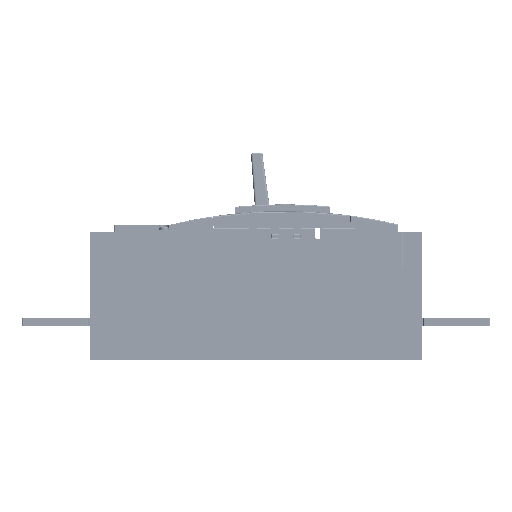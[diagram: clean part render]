
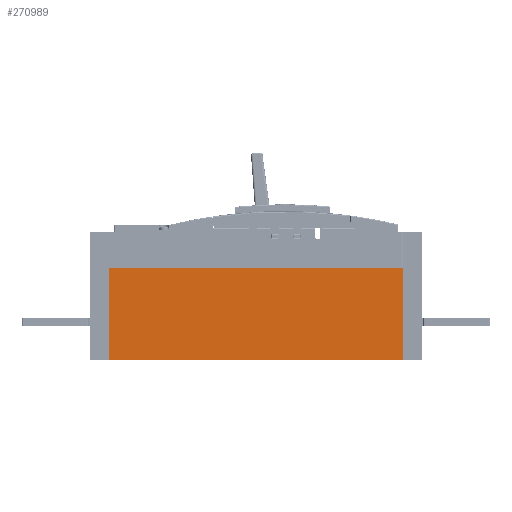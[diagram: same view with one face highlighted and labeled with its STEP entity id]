
A CAD part, left-side view. The second image highlights one B-rep face of the part: STEP entity #270989.
In plain terms, the highlighted planar face has unit normal (-1, 0, 0).
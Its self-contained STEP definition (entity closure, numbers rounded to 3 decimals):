
#5626 = DIRECTION ( 'NONE',  ( 0., 0., -1. ) ) ;
#5628 = VECTOR ( 'NONE', #5626, 1000. ) ;
#5631 = CARTESIAN_POINT ( 'NONE',  ( -128.283, 376.423, 95. ) ) ;
#5633 = LINE ( 'NONE', #5631, #5628 ) ;
#7449 = FACE_OUTER_BOUND ( 'NONE', #271001, .T. ) ;
#7593 = DIRECTION ( 'NONE',  ( 0., 0., -1. ) ) ;
#7594 = DIRECTION ( 'NONE',  ( 1., 0., 0. ) ) ;
#7595 = CARTESIAN_POINT ( 'NONE',  ( -128.283, 66.423, 95. ) ) ;
#7597 = AXIS2_PLACEMENT_3D ( 'NONE', #7595, #7594, #7593 ) ;
#7609 = PLANE ( 'NONE',  #7597 ) ;
#13616 = DIRECTION ( 'NONE',  ( 0., 0., -1. ) ) ;
#13617 = VECTOR ( 'NONE', #13616, 1000. ) ;
#13620 = CARTESIAN_POINT ( 'NONE',  ( -128.283, 66.423, 95. ) ) ;
#13622 = LINE ( 'NONE', #13620, #13617 ) ;
#72366 = CARTESIAN_POINT ( 'NONE',  ( -128.283, 376.423, -1.5 ) ) ;
#96436 = CARTESIAN_POINT ( 'NONE',  ( -128.283, 66.423, 95. ) ) ;
#96659 = DIRECTION ( 'NONE',  ( 0., -1., 0. ) ) ;
#96660 = VECTOR ( 'NONE', #96659, 1000. ) ;
#96662 = CARTESIAN_POINT ( 'NONE',  ( -128.283, 66.423, 95. ) ) ;
#96663 = LINE ( 'NONE', #96662, #96660 ) ;
#129210 = CARTESIAN_POINT ( 'NONE',  ( -128.283, 66.423, -1.5 ) ) ;
#132947 = DIRECTION ( 'NONE',  ( 0., -1., 0. ) ) ;
#132948 = VECTOR ( 'NONE', #132947, 1000. ) ;
#132951 = CARTESIAN_POINT ( 'NONE',  ( -128.283, 66.423, -1.5 ) ) ;
#132953 = LINE ( 'NONE', #132951, #132948 ) ;
#133289 = VERTEX_POINT ( 'NONE', #72366 ) ;
#137484 = VERTEX_POINT ( 'NONE', #129210 ) ;
#137921 = EDGE_CURVE ( 'NONE', #133289, #137484, #132953, .T. ) ;
#139814 = VERTEX_POINT ( 'NONE', #144287 ) ;
#144287 = CARTESIAN_POINT ( 'NONE',  ( -128.283, 376.423, 95. ) ) ;
#223418 = VERTEX_POINT ( 'NONE', #96436 ) ;
#223558 = EDGE_CURVE ( 'NONE', #139814, #223418, #96663, .T. ) ;
#270767 = EDGE_CURVE ( 'NONE', #139814, #133289, #5633, .T. ) ;
#270896 = ORIENTED_EDGE ( 'NONE', *, *, #270767, .T. ) ;
#270989 = ADVANCED_FACE ( 'NONE', ( #7449 ), #7609, .F. ) ;
#271001 = EDGE_LOOP ( 'NONE', ( #270896, #271041, #271511, #271782 ) ) ;
#271041 = ORIENTED_EDGE ( 'NONE', *, *, #137921, .T. ) ;
#271511 = ORIENTED_EDGE ( 'NONE', *, *, #271520, .F. ) ;
#271520 = EDGE_CURVE ( 'NONE', #223418, #137484, #13622, .T. ) ;
#271782 = ORIENTED_EDGE ( 'NONE', *, *, #223558, .F. ) ;
